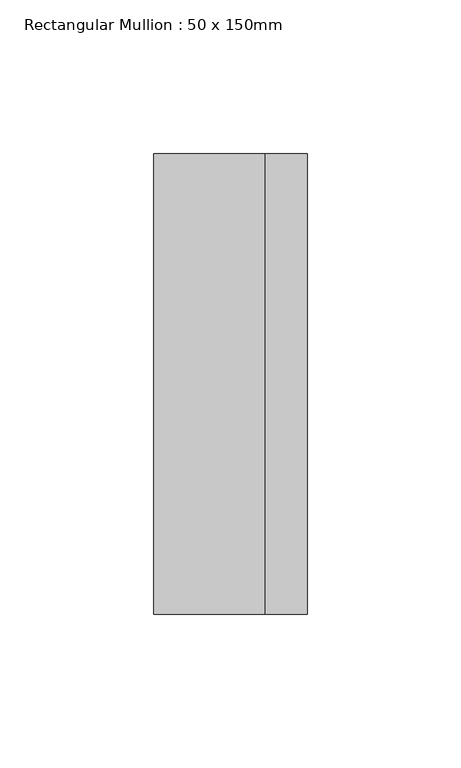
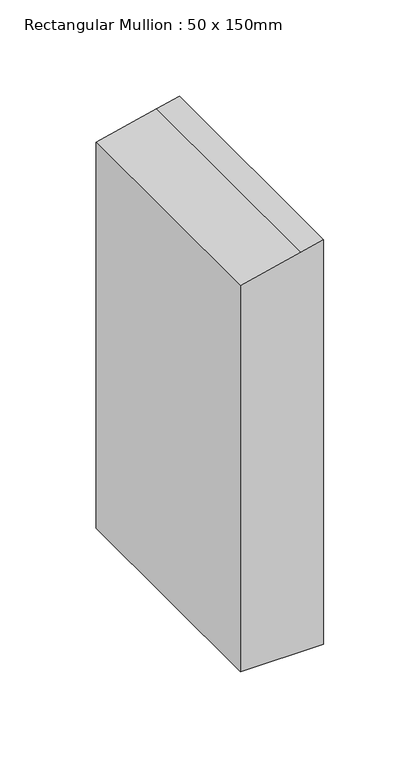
"""IFC4 building model written with IfcOpenShell, lengths in millimetres: member geometry, Rectangular Mullion : 50 x 150mm."""

from ifc_helpers import new_model, si_unit, frame, origin, place, context, project, spatial, polyline, outline, extrude, source, transform, mapped, element, save


def rectangular_mullion_50_x_150mm_7ca24a95(model_context):
    return source(origin(), model_context, "Body", "SweptSolid", [
        extrude(outline(polyline([(-45.4880193, 25.0), (-48.6748048, 11.4351816), (-57.2345292, -25.0), (-302.0230494, -25.0), (-302.0230494, 25.0), (-45.4880193, 25.0)])), frame((0.0, -75.0, 0.0), z_axis=(0.0, 1.0, 0.0), x_axis=(0.0, 0.0, 1.0)), (0.0, 0.0, 1.0), 150.0),
    ])


if __name__ == "__main__":
    model = new_model("IFC4")
    model_context = context("Model", 3, world=origin())
    ifc_project = project(units=[si_unit("LENGTHUNIT", "METRE", prefix="MILLI")], contexts=[model_context])
    site = spatial("IfcSite", under=ifc_project)
    building = spatial("IfcBuilding", under=site)
    placement = place(None, origin())
    rectangular_mullion_50_x_150mm_shape = rectangular_mullion_50_x_150mm_7ca24a95(model_context)
    element("IfcMember", 1, ObjectType="Rectangular Mullion : 50 x 150mm", at=placement, inside=building, context=model_context, shape_type="MappedRepresentation", body=[
        mapped(rectangular_mullion_50_x_150mm_shape, transform((0.0, 0.0, 0.0), x_axis=(1.0, 0.0, 0.0), y_axis=(0.0, 1.0, 0.0), z_axis=(0.0, 0.0, 1.0))),
    ])
    save(model, "model.ifc")
